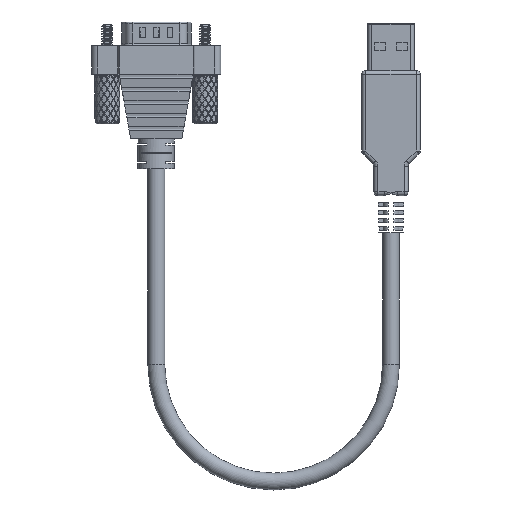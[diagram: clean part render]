
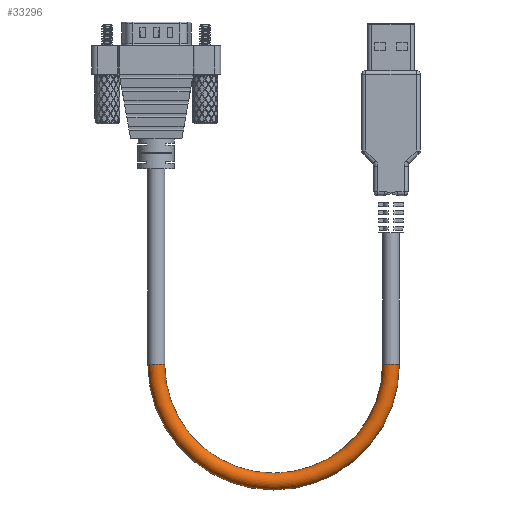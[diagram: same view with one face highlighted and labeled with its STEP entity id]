
A CAD part, front view. The second image highlights one B-rep face of the part: STEP entity #33296.
In plain terms, the highlighted toroidal (fillet/blend) face has major radius 30 mm and minor radius 2.15 mm.
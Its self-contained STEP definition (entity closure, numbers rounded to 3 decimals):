
#56=TOROIDAL_SURFACE('',#36733,30.,2.15);
#4778=FACE_OUTER_BOUND('',#6937,.T.);
#6937=EDGE_LOOP('',(#26404,#26405,#26406,#26407));
#8266=CIRCLE('',#34825,2.15);
#8497=CIRCLE('',#36730,2.15);
#8499=CIRCLE('',#36734,27.85);
#13688=VERTEX_POINT('',#55527);
#14842=VERTEX_POINT('',#60388);
#17127=EDGE_CURVE('',#13688,#13688,#8266,.T.);
#18942=EDGE_CURVE('',#14842,#14842,#8497,.T.);
#18945=EDGE_CURVE('',#13688,#14842,#8499,.T.);
#26404=ORIENTED_EDGE('',*,*,#17127,.F.);
#26405=ORIENTED_EDGE('',*,*,#18945,.T.);
#26406=ORIENTED_EDGE('',*,*,#18942,.T.);
#26407=ORIENTED_EDGE('',*,*,#18945,.F.);
#33296=ADVANCED_FACE('',(#4778),#56,.T.);
#34825=AXIS2_PLACEMENT_3D('',#55529,#40294,#40295);
#36730=AXIS2_PLACEMENT_3D('',#60389,#44731,#44732);
#36733=AXIS2_PLACEMENT_3D('',#60394,#44738,#44739);
#36734=AXIS2_PLACEMENT_3D('',#60395,#44740,#44741);
#40294=DIRECTION('center_axis',(0.,0.,
1.));
#40295=DIRECTION('ref_axis',(1.,0.,0.));
#44731=DIRECTION('center_axis',(0.,0.,
-1.));
#44732=DIRECTION('ref_axis',(-1.,0.,0.));
#44738=DIRECTION('center_axis',(0.,-1.,0.));
#44739=DIRECTION('ref_axis',(0.,0.,
-1.));
#44740=DIRECTION('center_axis',(0.,1.,0.));
#44741=DIRECTION('ref_axis',(0.,0.,
-1.));
#55527=CARTESIAN_POINT('',(-12.207,-17.092,-102.059));
#55529=CARTESIAN_POINT('Origin',(-10.057,-17.092,-102.059));
#60388=CARTESIAN_POINT('',(-67.907,-17.092,-102.059));
#60389=CARTESIAN_POINT('Origin',(-70.057,-17.092,-102.059));
#60394=CARTESIAN_POINT('Origin',(-40.057,-17.092,-102.059));
#60395=CARTESIAN_POINT('Origin',(-40.057,-17.092,-102.059));
